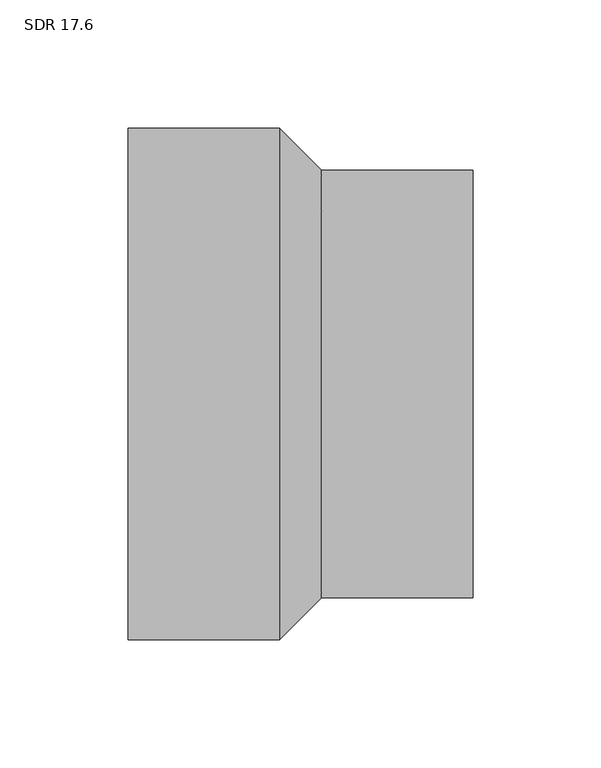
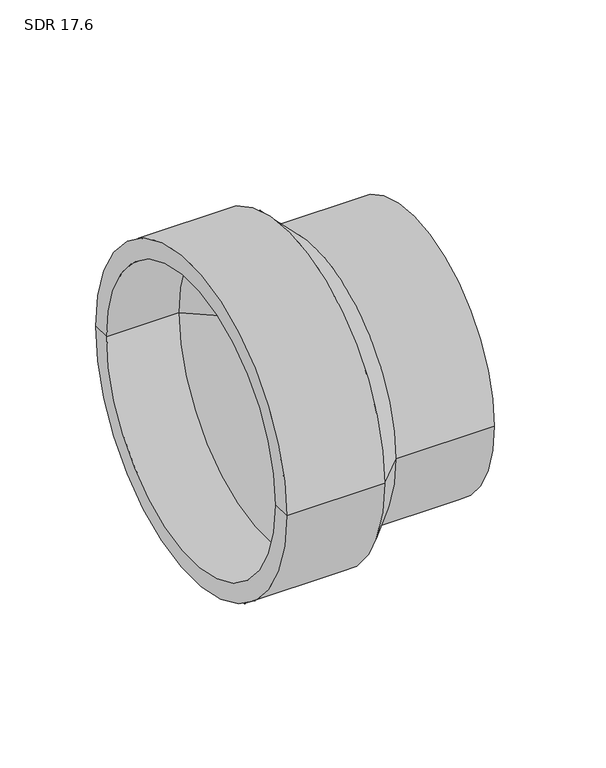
"""IFC4 building model written with IfcOpenShell, lengths in millimetres: pipe fitting geometry, Aquatherm - Reducing Coupling Butt Weld to Socket : SDR 17.6."""

from ifc_helpers import new_model, si_unit, frame, origin, place, context, project, spatial, polyline, circle_curve, source, transform, mapped, element, save
from ifc_brep_helpers import plane_surface, cylinder_surface, revolved_surface, advanced_brep


def sdr_17_6_51fb0b57(model_context):
    return source(origin(), model_context, "Body", "AdvancedBrep", [
        advanced_brep(
        [(30.734, -83.439, 0.0), (30.734, 83.439, 0.0), (89.916, 83.439, 0.0), (89.916, -83.439, 0.0), (89.916, 62.484, 0.0), (89.916, -62.484, 0.0), (-1.27, -88.519, 0.0), (-1.27, 88.519, 0.0), (-44.958, 88.519, 0.0), (-44.958, -88.519, 0.0), (-44.958, 99.949, 0.0), (-44.958, -99.949, 0.0), (50.038, 62.484, 0.0), (50.038, -62.484, 0.0), (50.038, 55.499, 0.0), (50.038, -55.499, 0.0), (42.418, 55.499, 0.0), (42.418, -55.499, 0.0), (14.224, 99.949, 0.0), (14.224, -99.949, 0.0)],
        [
            (0, 1, circle_curve(frame((30.734, 0.0, 0.0), z_axis=(1.0, 0.0, 0.0), x_axis=(0.0, 1.0, 0.0)), 83.439)),
            (1, 2),
            (2, 3, circle_curve(frame((89.916, 0.0, 0.0), z_axis=(-1.0, 0.0, 0.0), x_axis=(0.0, 1.0, 0.0)), 83.439)),
            (3, 0),
            (1, 0, circle_curve(frame((30.734, 0.0, 0.0), z_axis=(1.0, 0.0, 0.0), x_axis=(0.0, 1.0, 0.0)), 83.439)),
            (3, 2, circle_curve(frame((89.916, 0.0, 0.0), z_axis=(-1.0, 0.0, 0.0), x_axis=(0.0, 1.0, 0.0)), 83.439)),
            (2, 4),
            (4, 5, circle_curve(frame((89.916, 0.0, 0.0), z_axis=(-1.0, 0.0, 0.0), x_axis=(0.0, 1.0, 0.0)), 62.484)),
            (5, 3),
            (5, 4, circle_curve(frame((89.916, 0.0, 0.0), z_axis=(-1.0, 0.0, 0.0), x_axis=(0.0, 1.0, 0.0)), 62.484)),
            (6, 7, circle_curve(frame((-1.27, 0.0, 0.0), z_axis=(1.0, 0.0, 0.0), x_axis=(0.0, 1.0, 0.0)), 88.519)),
            (7, 8),
            (8, 9, circle_curve(frame((-44.958, 0.0, 0.0), z_axis=(-1.0, 0.0, 0.0), x_axis=(0.0, 1.0, 0.0)), 88.519)),
            (9, 6),
            (7, 6, circle_curve(frame((-1.27, 0.0, 0.0), z_axis=(1.0, 0.0, 0.0), x_axis=(0.0, 1.0, 0.0)), 88.519)),
            (9, 8, circle_curve(frame((-44.958, 0.0, 0.0), z_axis=(-1.0, 0.0, 0.0), x_axis=(0.0, 1.0, 0.0)), 88.519)),
            (8, 10),
            (10, 11, circle_curve(frame((-44.958, 0.0, 0.0), z_axis=(-1.0, 0.0, 0.0), x_axis=(0.0, 1.0, 0.0)), 99.949)),
            (11, 9),
            (11, 10, circle_curve(frame((-44.958, 0.0, 0.0), z_axis=(-1.0, 0.0, 0.0), x_axis=(0.0, 1.0, 0.0)), 99.949)),
            (4, 12),
            (12, 13, circle_curve(frame((50.038, 0.0, 0.0), z_axis=(-1.0, 0.0, 0.0), x_axis=(0.0, 1.0, 0.0)), 62.484)),
            (13, 5),
            (13, 12, circle_curve(frame((50.038, 0.0, 0.0), z_axis=(-1.0, 0.0, 0.0), x_axis=(0.0, 1.0, 0.0)), 62.484)),
            (12, 14),
            (14, 15, circle_curve(frame((50.038, 0.0, 0.0), z_axis=(-1.0, 0.0, 0.0), x_axis=(0.0, 1.0, 0.0)), 55.499)),
            (15, 13),
            (15, 14, circle_curve(frame((50.038, 0.0, 0.0), z_axis=(-1.0, 0.0, 0.0), x_axis=(0.0, 1.0, 0.0)), 55.499)),
            (14, 16),
            (16, 17, circle_curve(frame((42.418, 0.0, 0.0), z_axis=(-1.0, 0.0, 0.0), x_axis=(0.0, 1.0, 0.0)), 55.499)),
            (17, 15),
            (17, 16, circle_curve(frame((42.418, 0.0, 0.0), z_axis=(-1.0, 0.0, 0.0), x_axis=(0.0, 1.0, 0.0)), 55.499)),
            (10, 18),
            (18, 19, circle_curve(frame((14.224, 0.0, 0.0), z_axis=(-1.0, 0.0, 0.0), x_axis=(0.0, 1.0, 0.0)), 99.949)),
            (19, 11),
            (19, 18, circle_curve(frame((14.224, 0.0, 0.0), z_axis=(-1.0, 0.0, 0.0), x_axis=(0.0, 1.0, 0.0)), 99.949)),
            (16, 7),
            (6, 17),
            (18, 1),
            (0, 19),
        ],
        [
            cylinder_surface(frame((-77.0252293, 0.0, 0.0), z_axis=(-1.0, 0.0, 0.0), x_axis=(0.0, 1.0, 0.0)), 83.439),
            plane_surface(frame((89.916, 0.0, 0.0), z_axis=(1.0, 0.0, 0.0), x_axis=(0.0, 1.0, 0.0))),
            revolved_surface(polyline([(-44.958, 88.519, 0.0), (-1.269999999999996, 88.519, 0.0)]), (-77.0252293, 0.0, 0.0), (-1.0, 0.0, 0.0)),
            plane_surface(frame((-44.958, 0.0, 0.0), z_axis=(-1.0, 0.0, 0.0), x_axis=(0.0, 1.0, 0.0))),
            revolved_surface(polyline([(50.038, 62.484, 0.0), (89.916, 62.484, 0.0)]), (-77.0252293, 0.0, 0.0), (-1.0, 0.0, 0.0)),
            plane_surface(frame((50.038, 0.0, 0.0), z_axis=(1.0, 0.0, 0.0), x_axis=(0.0, 1.0, 0.0))),
            revolved_surface(polyline([(42.418000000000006, 55.499, 0.0), (50.038, 55.499, 0.0)]), (-77.0252293, 0.0, 0.0), (-1.0, 0.0, 0.0)),
            cylinder_surface(frame((-77.0252293, 0.0, 0.0), z_axis=(-1.0, 0.0, 0.0), x_axis=(0.0, 1.0, 0.0)), 99.949),
            revolved_surface(polyline([(-1.27, 88.519, 0.0), (42.418, 55.499, 0.0)]), (-77.0252293, 0.0, 0.0), (-1.0, 0.0, 0.0)),
            revolved_surface(polyline([(30.734, 83.439, 0.0), (14.224, 99.949, 0.0)]), (-77.0252293, 0.0, 0.0), (-1.0, 0.0, 0.0)),
        ],
        [
            (0, [[1, 2, 3, 4]]),
            (0, [[5, -4, 6, -2]]),
            (1, [[-3, 7, 8, 9]]),
            (1, [[-6, -9, 10, -7]]),
            (2, [[11, 12, 13, 14]]),
            (2, [[15, -14, 16, -12]]),
            (3, [[-13, 17, 18, 19]]),
            (3, [[-16, -19, 20, -17]]),
            (4, [[-8, 21, 22, 23]]),
            (4, [[-10, -23, 24, -21]]),
            (5, [[-22, 25, 26, 27]]),
            (5, [[-24, -27, 28, -25]]),
            (6, [[-26, 29, 30, 31]]),
            (6, [[-28, -31, 32, -29]]),
            (7, [[-18, 33, 34, 35]]),
            (7, [[-20, -35, 36, -33]]),
            (8, [[-30, 37, -11, 38]]),
            (8, [[-32, -38, -15, -37]]),
            (9, [[-34, 39, -1, 40]]),
            (9, [[-36, -40, -5, -39]]),
        ],
    ),
    ])


if __name__ == "__main__":
    model = new_model("IFC4")
    model_context = context("Model", 3, world=origin())
    ifc_project = project(units=[si_unit("LENGTHUNIT", "METRE", prefix="MILLI")], contexts=[model_context])
    site = spatial("IfcSite", under=ifc_project)
    building = spatial("IfcBuilding", under=site)
    placement = place(None, origin())
    sdr_17_6_shape = sdr_17_6_51fb0b57(model_context)
    element("IfcPipeFitting", 1, ObjectType="Aquatherm - Reducing Coupling Butt Weld to Socket : SDR 17.6", at=placement, inside=building, context=model_context, shape_type="MappedRepresentation", body=[
        mapped(sdr_17_6_shape, transform((0.0, 0.0, 0.0), x_axis=(1.0, 0.0, 0.0), y_axis=(0.0, 1.0, 0.0), z_axis=(0.0, 0.0, 1.0))),
    ])
    save(model, "model.ifc")
